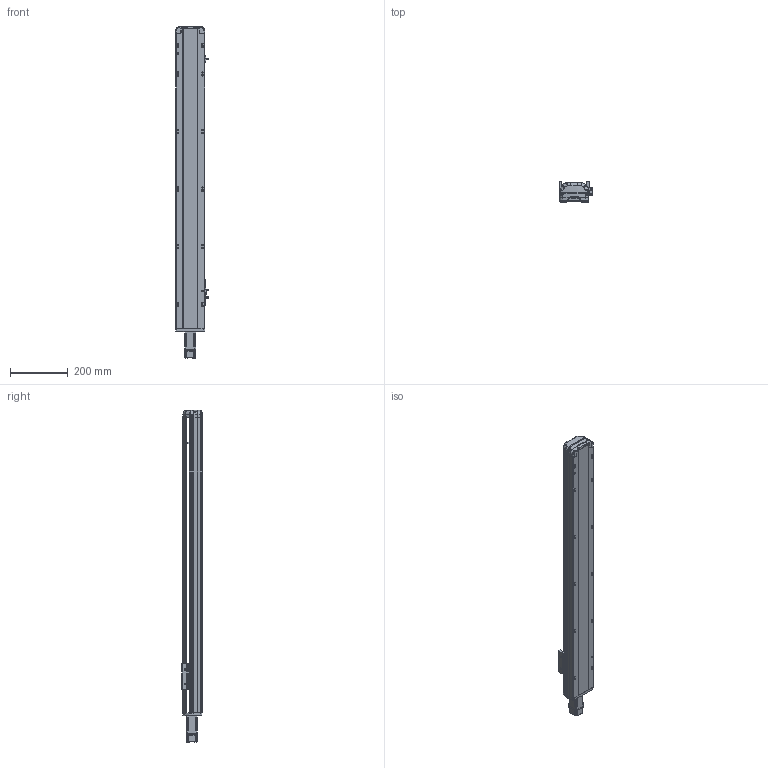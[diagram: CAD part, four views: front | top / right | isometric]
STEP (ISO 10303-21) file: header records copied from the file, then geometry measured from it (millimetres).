
FILE_DESCRIPTION (( 'STEP AP214' ), '1' );
FILE_NAME ('RTH10-XX-800-E-M10-C4.STEP', '2025-10-25T05:26:31', ( 'Microsoft' ), ( 'Microsoft' ), 'SwSTEP 2.0', 'SolidWorks 2018', '' );
FILE_SCHEMA (( 'AUTOMOTIVE_DESIGN' ));
Length unit declared in the file: millimetre
Products named in the file (9): N_OMRON EE-SX672 传感器^RTH10-XX-XX-E-M10-C4; N_RTH13-L-012覜茼え俋离^RTH10-XX-XX-E-M10-C4; N_RTH12-E-011P-臏倰第菁釱^RTH10-XX-XX-E-M10-C4; N_P10^RTH10-XX-XX-E-M10-C4; N_RTH12-E-008-M10萇儂啣^RTH10-XX-XX-E-M10-C4; N_RTH12-E-007P-奻裔^RTH10-XX-XX-E-M10-C4; N_RTH12-GY-004-賑釱^RTH10-XX-XX-E-M10-C4; N_RTH12-GY-001P^RTH10-XX-XX-E-M10-C4; RTH10-XX-800-E-M10-C4
Assembly tree (10 placements, depth 2):
  RTH10-XX-800-E-M10-C4
    N_RTH12-E-011P-臏倰第菁釱^RTH10-XX-XX-E-M10-C4
    N_RTH13-L-012覜茼え俋离^RTH10-XX-XX-E-M10-C4
    N_OMRON EE-SX672 传感器^RTH10-XX-XX-E-M10-C4  x3
    N_P10^RTH10-XX-XX-E-M10-C4
    N_RTH12-E-007P-奻裔^RTH10-XX-XX-E-M10-C4
    N_RTH12-E-008-M10萇儂啣^RTH10-XX-XX-E-M10-C4
    N_RTH12-GY-001P^RTH10-XX-XX-E-M10-C4
    N_RTH12-GY-004-賑釱^RTH10-XX-XX-E-M10-C4
Bounding box: 116.5 x 70 x 1153.34 mm (x, y, z)
Volume: 4189917.4 mm3; surface area: 660667.6 mm2
Topology: 9 solids, 11 shells, 1972 faces, 5497 edges, 3606 vertices
Faces by surface type: plane 976, cylinder 489, bspline 472, cone 33, torus 2
Entity records: 59461 total; most frequent: CARTESIAN_POINT 23474, ORIENTED_EDGE 8074, DIRECTION 6241, EDGE_CURVE 4043, VERTEX_POINT 2650, VECTOR 2127, LINE 2127, AXIS2_PLACEMENT_3D 2057
